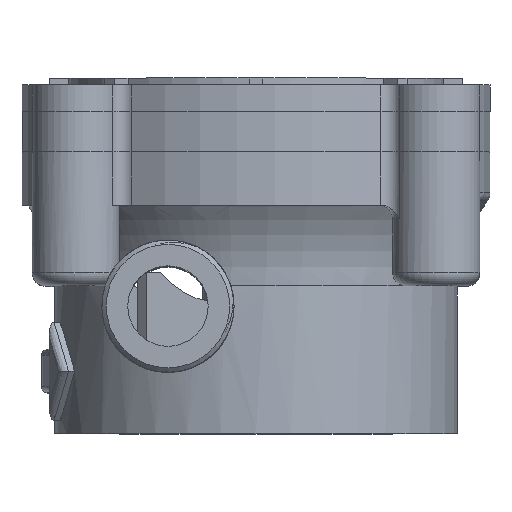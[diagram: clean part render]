
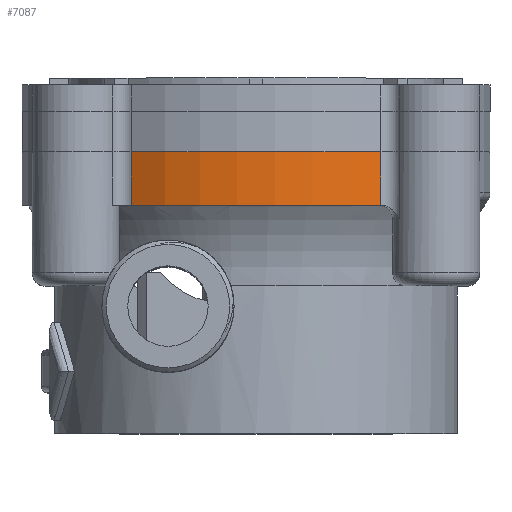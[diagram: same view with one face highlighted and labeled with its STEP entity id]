
A CAD part, top view. The second image highlights one B-rep face of the part: STEP entity #7087.
In plain terms, the highlighted cylindrical face has radius 17.5 mm (diameter 35 mm), a partial arc.
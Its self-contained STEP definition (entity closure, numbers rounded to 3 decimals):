
#870=FACE_OUTER_BOUND('',#1292,.T.);
#1292=EDGE_LOOP('',(#6365,#6366,#6367,#6368));
#1852=LINE('',#21552,#2381);
#1853=LINE('',#21560,#2382);
#2381=VECTOR('',#9911,10.);
#2382=VECTOR('',#9924,10.);
#2646=CIRCLE('',#7784,17.5);
#2737=CIRCLE('',#7957,17.5);
#3282=VERTEX_POINT('',#20940);
#3283=VERTEX_POINT('',#20942);
#3418=VERTEX_POINT('',#21550);
#3419=VERTEX_POINT('',#21558);
#4219=EDGE_CURVE('',#3282,#3283,#2646,.T.);
#4428=EDGE_CURVE('',#3418,#3282,#1852,.T.);
#4431=EDGE_CURVE('',#3419,#3418,#2737,.T.);
#4432=EDGE_CURVE('',#3283,#3419,#1853,.T.);
#6365=ORIENTED_EDGE('',*,*,#4428,.F.);
#6366=ORIENTED_EDGE('',*,*,#4431,.F.);
#6367=ORIENTED_EDGE('',*,*,#4432,.F.);
#6368=ORIENTED_EDGE('',*,*,#4219,.F.);
#6710=CYLINDRICAL_SURFACE('',#7956,17.5);
#7087=ADVANCED_FACE('',(#870),#6710,.T.);
#7784=AXIS2_PLACEMENT_3D('',#20943,#9465,#9466);
#7956=AXIS2_PLACEMENT_3D('',#21557,#9920,#9921);
#7957=AXIS2_PLACEMENT_3D('',#21559,#9922,#9923);
#9465=DIRECTION('center_axis',(0.,-1.,0.));
#9466=DIRECTION('ref_axis',(-1.,0.,0.));
#9911=DIRECTION('',(0.,-1.,0.));
#9920=DIRECTION('center_axis',(0.,1.,0.));
#9921=DIRECTION('ref_axis',(-1.,0.,0.));
#9922=DIRECTION('center_axis',(0.,1.,0.));
#9923=DIRECTION('ref_axis',(-1.,0.,0.));
#9924=DIRECTION('',(0.,1.,0.));
#20940=CARTESIAN_POINT('',(9.293,17.,14.829));
#20942=CARTESIAN_POINT('',(-9.293,17.,14.829));
#20943=CARTESIAN_POINT('Origin',(0.,17.,0.));
#21550=CARTESIAN_POINT('',(9.293,21.,14.829));
#21552=CARTESIAN_POINT('',(9.293,17.,14.829));
#21557=CARTESIAN_POINT('Origin',(0.,17.,0.));
#21558=CARTESIAN_POINT('',(-9.293,21.,14.829));
#21559=CARTESIAN_POINT('Origin',(0.,21.,0.));
#21560=CARTESIAN_POINT('',(-9.293,17.,14.829));
